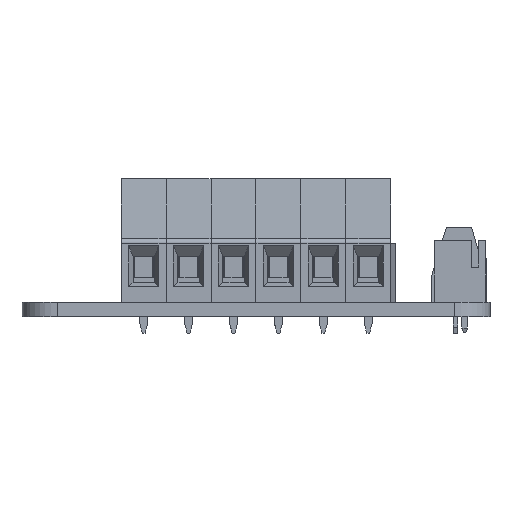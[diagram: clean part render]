
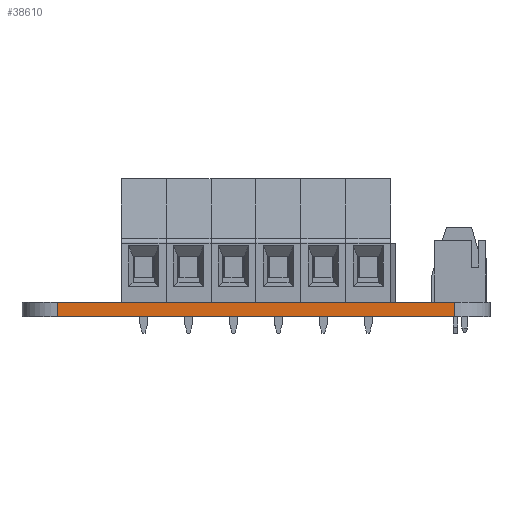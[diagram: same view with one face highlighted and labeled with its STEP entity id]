
A CAD part, left-side view. The second image highlights one B-rep face of the part: STEP entity #38610.
In plain terms, the highlighted planar face has unit normal (-1, 0, 0).
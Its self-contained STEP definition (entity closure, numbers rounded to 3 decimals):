
#1504=PLANE('',#40710);
#2989=FACE_OUTER_BOUND('',#4983,.T.);
#4983=EDGE_LOOP('',(#25423,#25424,#25425,#25426));
#7578=LINE('',#52281,#11883);
#7591=LINE('',#52321,#11896);
#7592=LINE('',#52324,#11897);
#7593=LINE('',#52325,#11898);
#11883=VECTOR('',#43125,1.);
#11896=VECTOR('',#43164,1.);
#11897=VECTOR('',#43169,1.);
#11898=VECTOR('',#43170,1.);
#16188=VERTEX_POINT('',#52279);
#16189=VERTEX_POINT('',#52280);
#16202=VERTEX_POINT('',#52318);
#16203=VERTEX_POINT('',#52320);
#19877=EDGE_CURVE('',#16188,#16189,#7578,.T.);
#19897=EDGE_CURVE('',#16203,#16202,#7591,.T.);
#19899=EDGE_CURVE('',#16202,#16189,#7592,.T.);
#19900=EDGE_CURVE('',#16203,#16188,#7593,.T.);
#25423=ORIENTED_EDGE('',*,*,#19897,.T.);
#25424=ORIENTED_EDGE('',*,*,#19899,.T.);
#25425=ORIENTED_EDGE('',*,*,#19877,.F.);
#25426=ORIENTED_EDGE('',*,*,#19900,.F.);
#38610=ADVANCED_FACE('',(#2989),#1504,.T.);
#40710=AXIS2_PLACEMENT_3D('',#52323,#43167,#43168);
#43125=DIRECTION('',(0.,0.,1.));
#43164=DIRECTION('',(0.,0.,1.));
#43167=DIRECTION('center_axis',(-1.,0.,0.));
#43168=DIRECTION('ref_axis',(0.,1.,0.));
#43169=DIRECTION('',(0.,1.,0.));
#43170=DIRECTION('',(0.,1.,0.));
#52279=CARTESIAN_POINT('',(201.309,52.35,0.));
#52280=CARTESIAN_POINT('',(201.309,52.35,1.6));
#52281=CARTESIAN_POINT('',(201.309,52.35,0.));
#52318=CARTESIAN_POINT('',(201.309,7.35,1.6));
#52320=CARTESIAN_POINT('',(201.309,7.35,0.));
#52321=CARTESIAN_POINT('',(201.309,7.35,0.));
#52323=CARTESIAN_POINT('Origin',(201.309,7.35,0.));
#52324=CARTESIAN_POINT('',(201.309,7.35,1.6));
#52325=CARTESIAN_POINT('',(201.309,7.35,0.));
